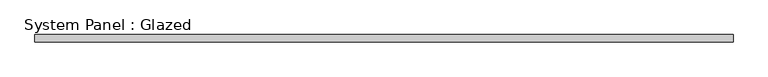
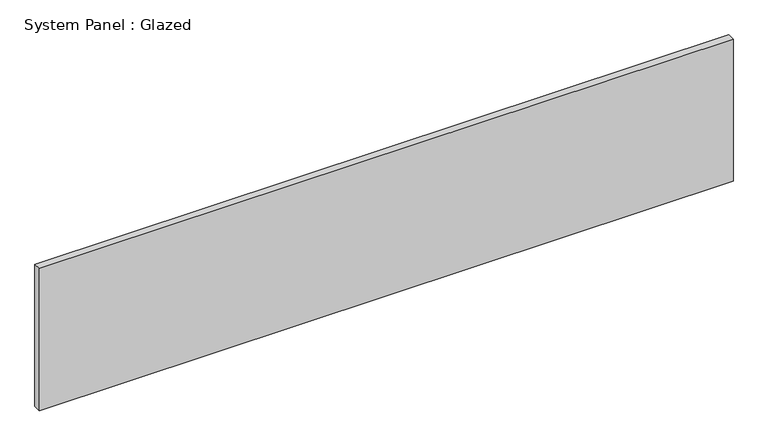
"""IFC4 building model written with IfcOpenShell, lengths in millimetres: plate geometry, System Panel : Glazed."""

from ifc_helpers import new_model, si_unit, origin, origin_with_axes, place, context, project, spatial, polyline, outline, extrude, source, transform, mapped, element, save


def system_panel_glazed_1068a10c(model_context):
    return source(origin(), model_context, "Body", "SweptSolid", [
        extrude(outline(polyline([(1187.45, -44.45), (-1187.45, -44.45), (-1187.45, -19.05), (1187.45, -19.05), (1187.45, -44.45)])), origin_with_axes(), (0.0, 0.0, 1.0), 514.35),
    ])


if __name__ == "__main__":
    model = new_model("IFC4")
    model_context = context("Model", 3, world=origin())
    ifc_project = project(units=[si_unit("LENGTHUNIT", "METRE", prefix="MILLI")], contexts=[model_context])
    site = spatial("IfcSite", under=ifc_project)
    building = spatial("IfcBuilding", under=site)
    placement = place(None, origin())
    system_panel_glazed_shape = system_panel_glazed_1068a10c(model_context)
    element("IfcPlate", 1, ObjectType="System Panel : Glazed", at=placement, inside=building, context=model_context, shape_type="MappedRepresentation", body=[
        mapped(system_panel_glazed_shape, transform((0.0, 0.0, 0.0), x_axis=(1.0, 0.0, 0.0), y_axis=(0.0, 1.0, 0.0), z_axis=(0.0, 0.0, 1.0))),
    ])
    save(model, "model.ifc")
